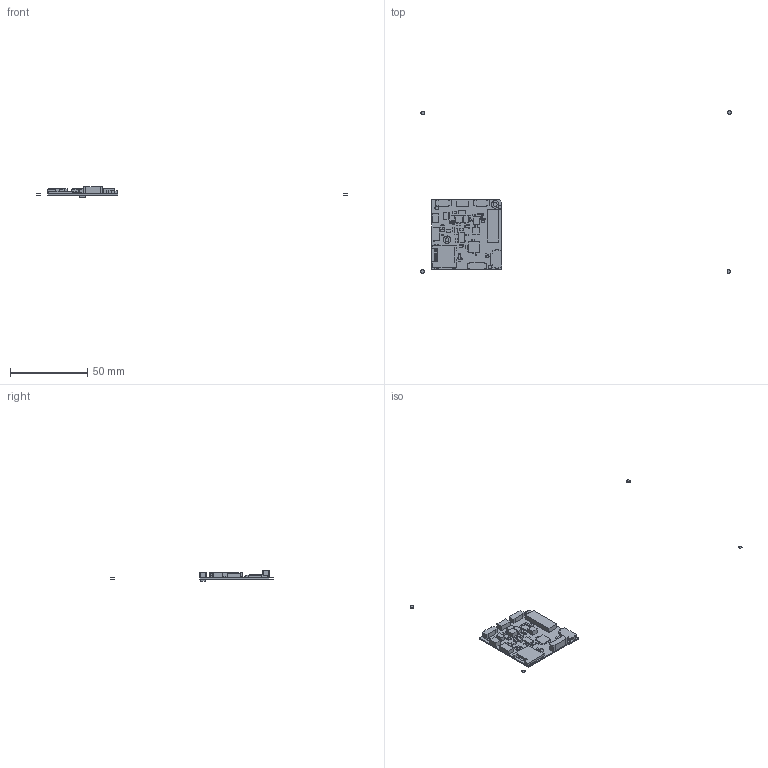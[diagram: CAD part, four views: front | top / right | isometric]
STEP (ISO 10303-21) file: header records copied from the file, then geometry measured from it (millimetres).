
FILE_DESCRIPTION(/* description */ ('PCB Design'),/* implementation_level */ '2;1');
FILE_NAME(/* name */ 'mLDVC_MEZZ_R3',/* time_stamp */ '2017-07-17T14:40:06+02:00',/* author */ ('xxxxx'),/* organization */ (''),/* preprocessor_version */ 'ST-DEVELOPER v15',/* originating_system */ 'allegro_16.6S050',/* authorisation */ '');
FILE_SCHEMA (('AUTOMOTIVE_DESIGN'));
Length unit declared in the file: millimetre
Products named in the file (33): MLDVC_MEZZ_R3; BOARD; COMPONENTS; M98P185; DFN16_5X4_05EP; MSOP8; QSH020-01-F-D-DP-A; 0532610671; XAL4030; SMA; C0805; C1210; DFN10_3X3_05EP; FID40; SOD-923; TL1015; R0201; R0603; R0402; IND_0603; C0603; C1206; FB0603; C0402; C0201; 0532610371; 0532610471; 0532610571; SOT23-6; MX47589-0001; 5031820853; FH12-15S-0P5SH; TQFN16
Assembly tree (92 placements, depth 3):
  MLDVC_MEZZ_R3
    BOARD
    COMPONENTS
      M98P185  x2
      DFN16_5X4_05EP
      MSOP8
      QSH020-01-F-D-DP-A
      0532610671
      XAL4030  x2
      SMA
      C0805  x3
      C1210  x2
      DFN10_3X3_05EP
      FID40  x12
      SOD-923
      TL1015
      R0201
      R0603  x2
      R0402  x20
      IND_0603
      C0603  x6
      C1206
      FB0603
      C0402  x17
      C0201  x3
      0532610371
      0532610471  x2
      0532610571
      SOT23-6
      MX47589-0001
      5031820853
      FH12-15S-0P5SH
      TQFN16
Bounding box: 200.56 x 104.98 x 7.01 mm (x, y, z)
Surface area: 7707.5 mm2 (no closed solid volume)
Topology: 0 solids, 106 shells, 686 faces, 1538 edges, 948 vertices
Faces by surface type: plane 633, cylinder 53
Entity records: 10475 total; most frequent: ORIENTED_EDGE 1500, DIRECTION 1152, EDGE_CURVE 806, CARTESIAN_POINT 790, VECTOR 748, LINE 748, VERTEX_POINT 612, AXIS2_PLACEMENT_3D 584
